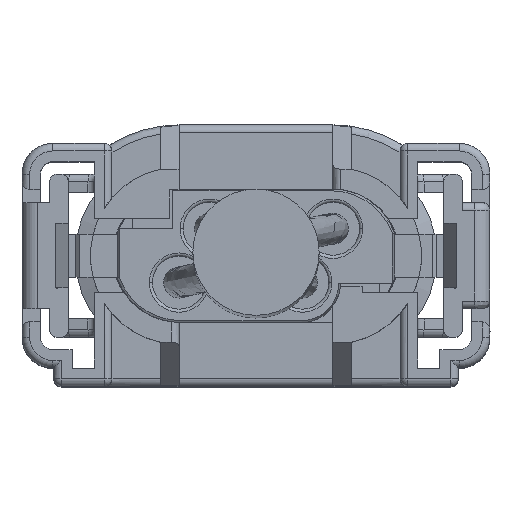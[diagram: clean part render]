
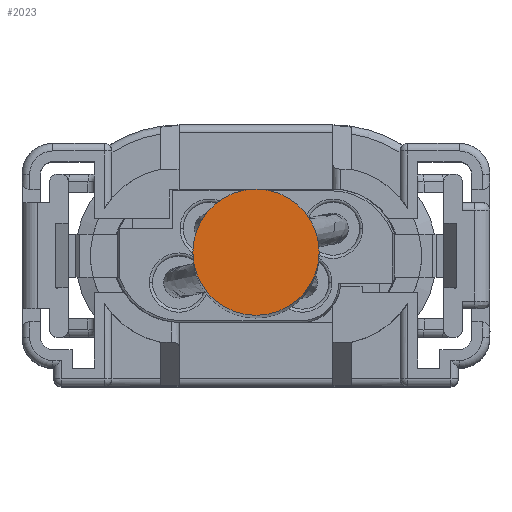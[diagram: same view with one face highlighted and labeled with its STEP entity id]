
A CAD part, top view. The second image highlights one B-rep face of the part: STEP entity #2023.
In plain terms, the highlighted planar face has unit normal (0, 0, 1).
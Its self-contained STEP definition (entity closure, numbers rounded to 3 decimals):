
#1229=FACE_OUTER_BOUND('',#3527,.T.);
#2023=ADVANCED_FACE('',(#1229),#2568,.T.);
#2568=PLANE('',#16355);
#3527=EDGE_LOOP('',(#8288));
#3985=CIRCLE('',#16354,4.1);
#8288=ORIENTED_EDGE('',*,*,#11837,.F.);
#9677=VERTEX_POINT('',#25782);
#11837=EDGE_CURVE('',#9677,#9677,#3985,.T.);
#16354=AXIS2_PLACEMENT_3D('',#25781,#20511,#20512);
#16355=AXIS2_PLACEMENT_3D('',#25783,#20513,#20514);
#20511=DIRECTION('',(0.,0.,-1.));
#20512=DIRECTION('',(1.,0.,0.));
#20513=DIRECTION('',(0.,0.,1.));
#20514=DIRECTION('',(1.,0.,0.));
#25781=CARTESIAN_POINT('',(0.,0.,152.));
#25782=CARTESIAN_POINT('',(4.1,0.,152.));
#25783=CARTESIAN_POINT('',(0.,0.,152.));
